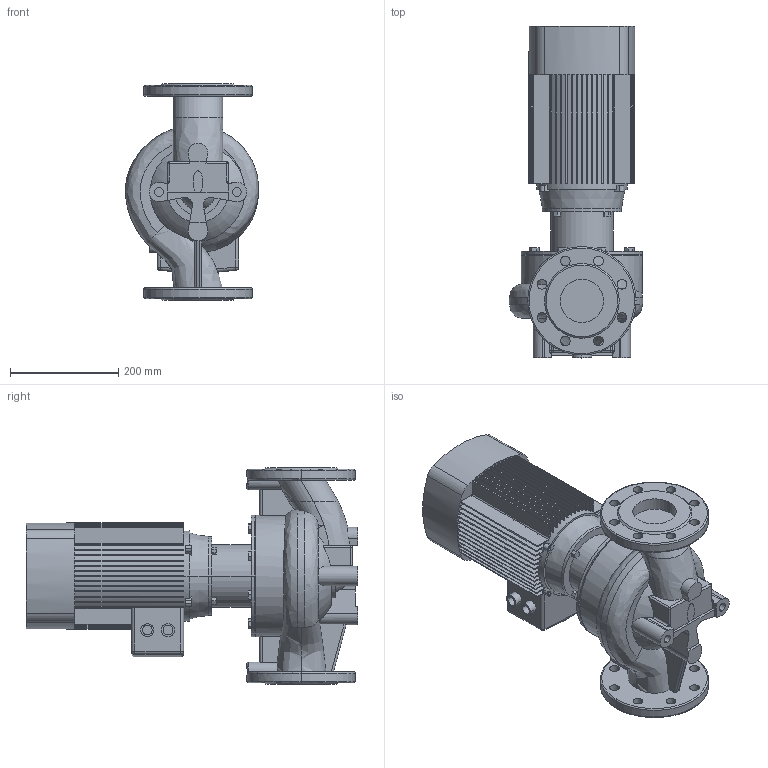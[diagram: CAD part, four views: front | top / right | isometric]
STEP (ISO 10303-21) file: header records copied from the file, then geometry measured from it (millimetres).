
FILE_DESCRIPTION (( 'STEP AP203' ), '1' );
FILE_NAME ('TD80-13G_2.STEP', '2022-05-02T18:28:31', ( '' ), ( '' ), 'SwSTEP 2.0', 'SolidWorks 2019', '' );
FILE_SCHEMA (( 'CONFIG_CONTROL_DESIGN' ));
Length unit declared in the file: millimetre
Products named in the file (4): TD80-13G_2; Pr_ch 80_TD80-13G_2; ED_B14_YE2-100L-2 (3); Fon_80_TD80-13G_2
Assembly tree (3 placements, depth 2):
  TD80-13G_2
    Pr_ch 80_TD80-13G_2
    Fon_80_TD80-13G_2
    ED_B14_YE2-100L-2 (3)
Bounding box: 246.15 x 613 x 400 mm (x, y, z)
Volume: 18209502.9 mm3; surface area: 1222190 mm2
Topology: 3 solids, 7 shells, 671 faces, 1808 edges, 1192 vertices
Faces by surface type: plane 428, cylinder 175, bspline 26, torus 25, cone 11, sphere 6
Entity records: 27937 total; most frequent: CARTESIAN_POINT 10465, ORIENTED_EDGE 3608, DIRECTION 3535, EDGE_CURVE 1804, AXIS2_PLACEMENT_3D 1245, VERTEX_POINT 1192, VECTOR 1045, LINE 1045
